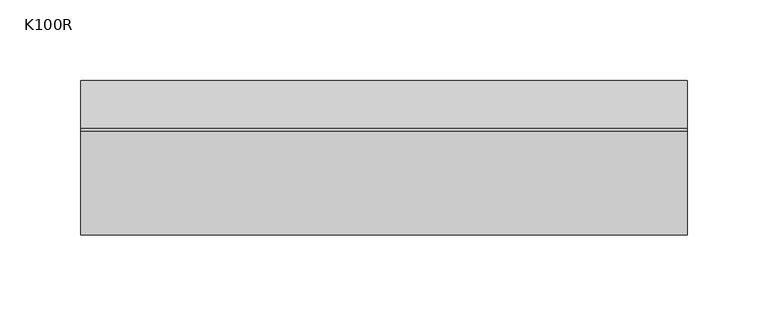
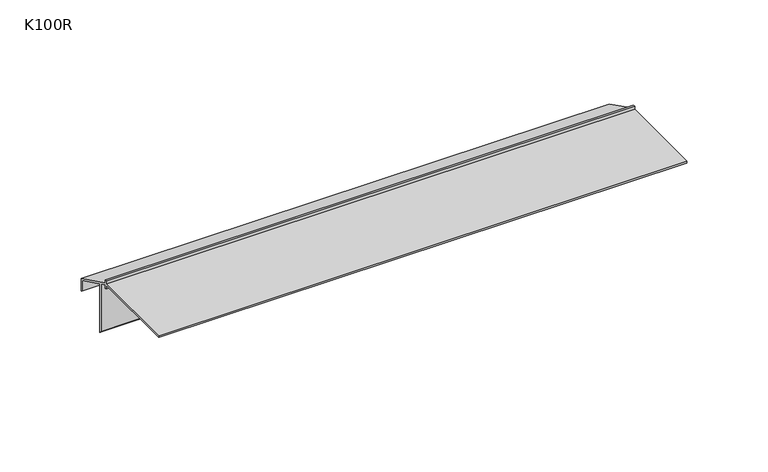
"""IFC4 building model written with IfcOpenShell, lengths in millimetres: proxy geometry, K100R Profil okapowy prosty z rynną : K100R."""

from ifc_helpers import new_model, si_unit, frame, origin, place, context, project, spatial, polyline, outline, extrude, source, transform, mapped, element, save


def k100r_94412a76(model_context):
    return source(origin(), model_context, "Body", "SweptSolid", [
        extrude(outline(polyline([(31.2999993, -17.3500005), (31.2999993, -26.6), (30.0499993, -25.9199265), (30.0499993, -18.1225422), (7.9999999, -7.0975422), (7.9999999, -43.6535517), (6.5000001, -42.1535547), (6.5000001, -6.3475423), (1.1999998, -3.697542), (1.1999998, -6.2999991), (0.0, -6.2999991), (0.0, -3.6), (-64.7000037, -3.6), (-64.7000037, -2.3499993), (0.0, -2.3499993), (0.0, 0.0), (1.2999997, 0.0), (1.2999997, -2.3500002), (31.2999993, -17.3500005)])), frame((0.0, 0.0, 0.0), z_axis=(1.0, 0.0, 0.0), x_axis=(0.0, 1.0, 0.0)), (0.0, 0.0, 1.0), 376.3064141),
    ])


if __name__ == "__main__":
    model = new_model("IFC4")
    model_context = context("Model", 3, world=origin())
    ifc_project = project(units=[si_unit("LENGTHUNIT", "METRE", prefix="MILLI")], contexts=[model_context])
    site = spatial("IfcSite", under=ifc_project)
    building = spatial("IfcBuilding", under=site)
    placement = place(None, origin())
    k100r_shape = k100r_94412a76(model_context)
    element("IfcBuildingElementProxy", 1, Name="K100R Profil okapowy prosty z rynną : K100R", ObjectType="K100R Profil okapowy prosty z rynną : K100R", at=placement, inside=building, context=model_context, shape_type="MappedRepresentation", body=[
        mapped(k100r_shape, transform((0.0, 0.0, 0.0), x_axis=(1.0, 0.0, 0.0), y_axis=(0.0, 1.0, 0.0), z_axis=(0.0, 0.0, 1.0))),
    ])
    save(model, "model.ifc")
